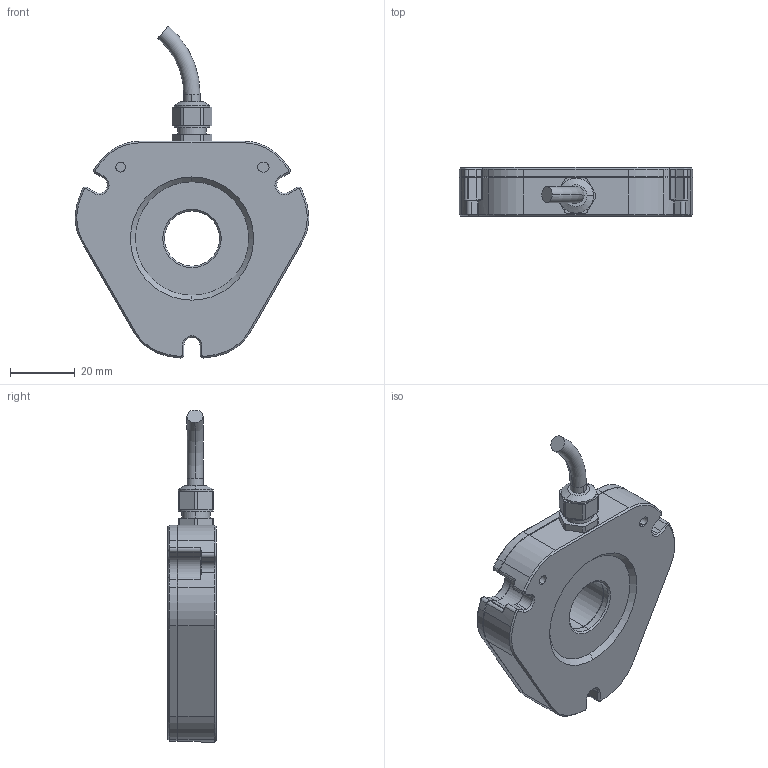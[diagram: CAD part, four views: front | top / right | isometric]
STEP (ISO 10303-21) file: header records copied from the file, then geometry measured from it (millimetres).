
FILE_DESCRIPTION (( 'STEP AP214' ), '1' );
FILE_NAME ('RX651_ORBIS_BR20_cable_gland.STEP', '2024-08-29T13:50:57', ( '' ), ( '' ), 'SwSTEP 2.0', 'SolidWorks 2022', '' );
FILE_SCHEMA (( 'AUTOMOTIVE_DESIGN' ));
Length unit declared in the file: millimetre
Products named in the file (1): RX651_ORBIS_BR20_cable_gland
Bounding box: 72.06 x 15 x 102.35 mm (x, y, z)
Volume: 49425.3 mm3; surface area: 14086.8 mm2
Topology: 9 solids, 9 shells, 1145 faces, 2832 edges, 1753 vertices
Faces by surface type: plane 398, cylinder 288, bspline 222, cone 209, torus 28
Entity records: 52434 total; most frequent: CARTESIAN_POINT 13540, ORIENTED_EDGE 5616, DIRECTION 5159, EDGE_CURVE 2808, AXIS2_PLACEMENT_3D 1878, VERTEX_POINT 1753, LINE 1403, VECTOR 1403
